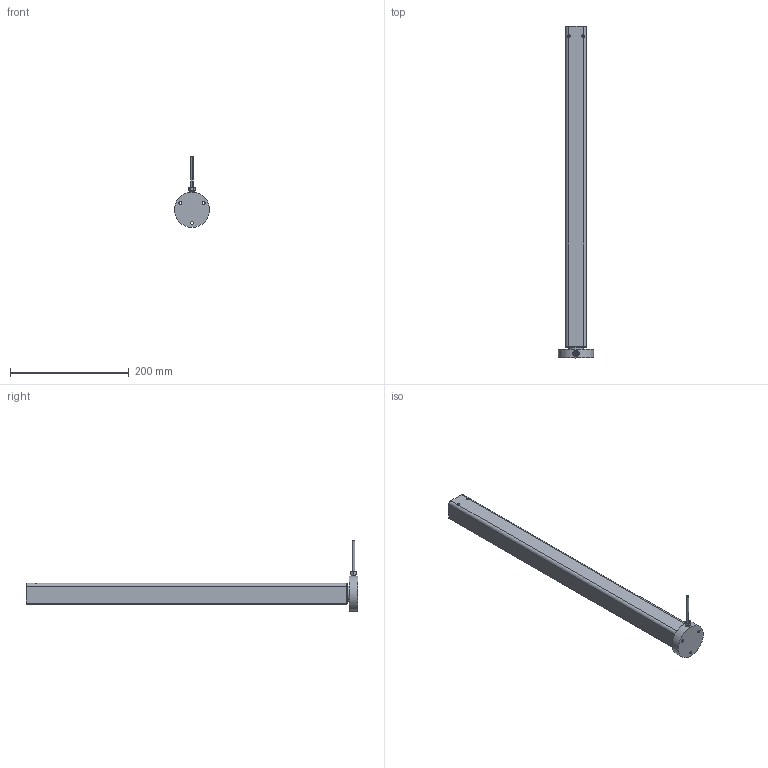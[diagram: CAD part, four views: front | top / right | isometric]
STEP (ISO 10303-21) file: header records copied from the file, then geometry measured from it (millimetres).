
FILE_DESCRIPTION(/* description */ ('Unknown'),/* implementation_level */ '2;1');
FILE_NAME(/* name */ '106.20044 Lineareinheit LD 1840_eingefahren',/* time_stamp */ '2017-11-02T16:56:49+01:00',/* author */ ('Unknown'),/* organization */ ('Unknown'),/* preprocessor_version */ 'ST-DEVELOPER v16.7',/* originating_system */ 'DEX',/* authorisation */ $);
FILE_SCHEMA (('AUTOMOTIVE_DESIGN {1 0 10303 214 3 1 1}'));
Products named in the file (11): 106.20044; 119.00004; 142.00014; 142.00021; 125.00021; 115.00008; 125.00049; 122.00018; 125.00055; 123.00004; 113.00002_70mm
Assembly tree (11 placements, depth 2):
  106.20044
    119.00004
    142.00014  x2
    142.00021
    125.00021
    115.00008
    125.00049
    122.00018
    125.00055
    123.00004
    113.00002_70mm
Bounding box: 59.5 x 559.25 x 119 mm (x, y, z)
Volume: 416803.7 mm3; surface area: 255866.3 mm2
Topology: 10 solids, 10 shells, 815 faces, 1906 edges, 1139 vertices
Faces by surface type: cylinder 277, bspline 224, plane 222, cone 50, torus 29, sphere 13
Full cylindrical faces by diameter (mm): 2.2 x1, 3.5 x2, 4 x7, 4.1 x1, 4.134 x4, 4.2 x1, 4.917 x3, 6.647 x1, 6.917 x2, 8 x2, 14.4 x1, 17.3 x2, 17.9 x2, 19 x2, 20.8 x4, 21 x1, 25 x1, 30.63 x1, 59.5 x1
Entity records: 76157 total; most frequent: CARTESIAN_POINT 59524, ORIENTED_EDGE 3520, DIRECTION 2681, EDGE_CURVE 1760, VERTEX_POINT 1084, AXIS2_PLACEMENT_3D 1046, FACE_BOUND 938, EDGE_LOOP 936
